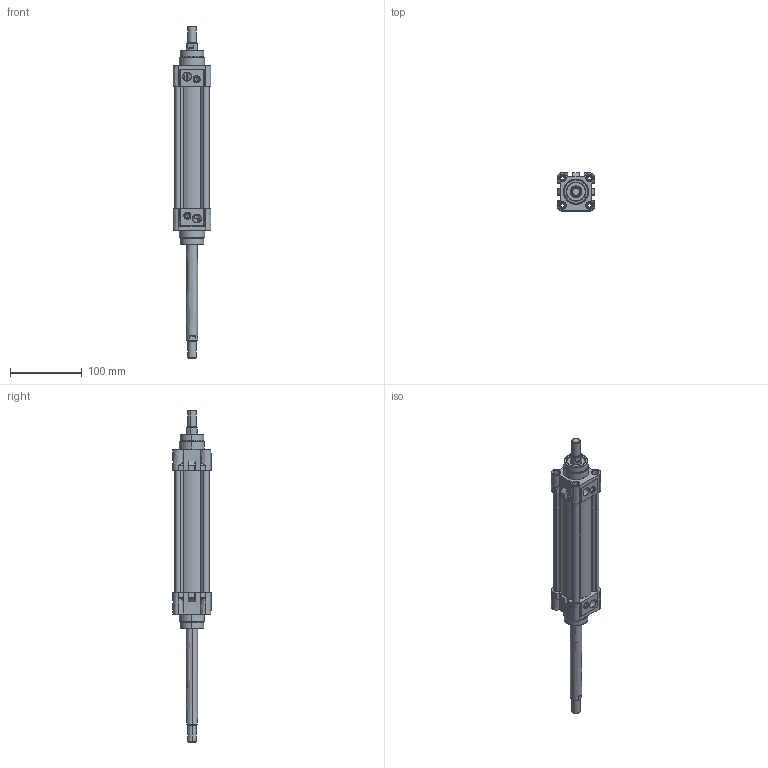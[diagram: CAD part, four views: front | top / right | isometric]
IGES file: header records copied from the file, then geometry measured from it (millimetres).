
Start section: SolidWorks IGES file using analytic representation for surfaces
Global section: file name: D:\ARICA 3D 禽Z軲LER\3D IGES\MDNC 禽FT M軱L輁MDNC40\MDNC40X125CIFTMILLI-CYLINDER.IGS; native system: SolidWorks 2013; preprocessor: SolidWorks 2013; author: user; date: 160401.143432; units: millimetre
Bounding box: 53 x 53.3 x 463.1 mm (x, y, z)
Surface area: 155152.6 mm2 (no closed solid volume)
Topology: 0 solids, 0 shells, 689 faces, 11482 edges, 11480 vertices
Faces by surface type: revolution 433, bspline 256
